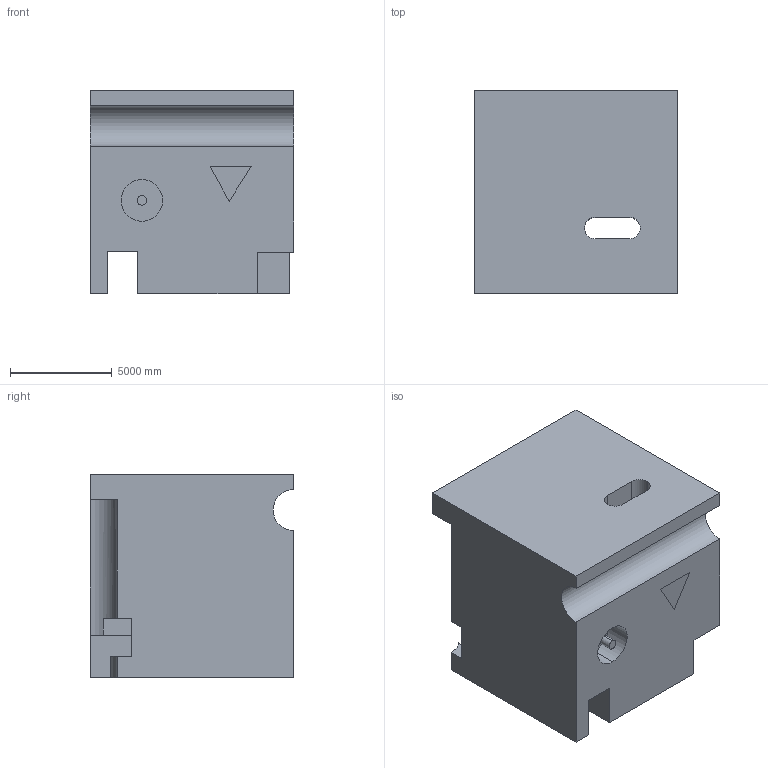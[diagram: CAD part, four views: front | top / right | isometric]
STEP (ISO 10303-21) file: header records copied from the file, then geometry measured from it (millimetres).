
FILE_DESCRIPTION (( 'STEP AP203' ), '1' );
FILE_NAME ('861.STEP', '2022-08-04T16:02:35', ( 'user' ), ( '' ), 'SwSTEP 2.0', 'SolidWorks 2021', '' );
FILE_SCHEMA (( 'CONFIG_CONTROL_DESIGN' ));
Length unit declared in the file: centimetre
Products named in the file (1): 861
Bounding box: 10000 x 10000 x 10000 mm (x, y, z)
Volume: 872044672911.3 mm3; surface area: 713116890.9 mm2
Topology: 1 solids, 1 shells, 39 faces, 102 edges, 68 vertices
Faces by surface type: plane 28, cylinder 11
Entity records: 1281 total; most frequent: CARTESIAN_POINT 210, DIRECTION 206, ORIENTED_EDGE 204, EDGE_CURVE 102, VECTOR 78, LINE 78, VERTEX_POINT 68, AXIS2_PLACEMENT_3D 64
